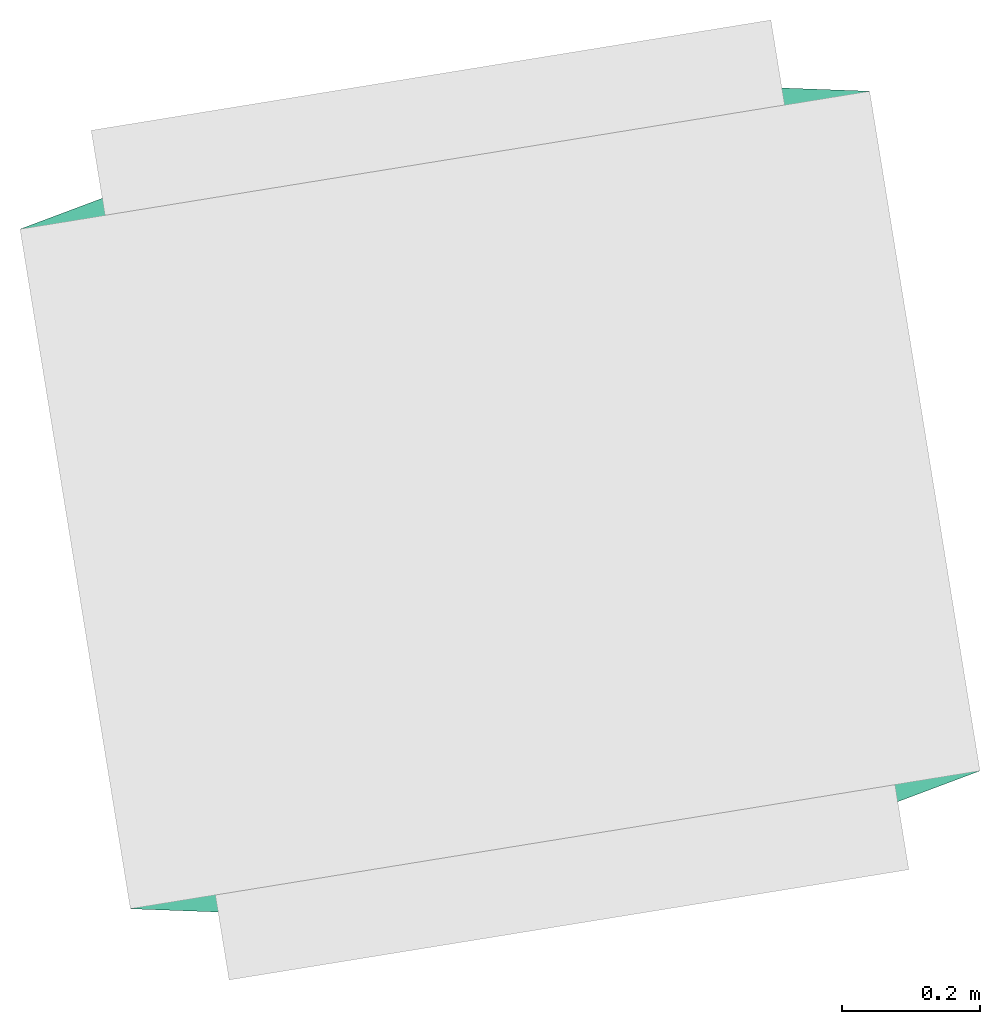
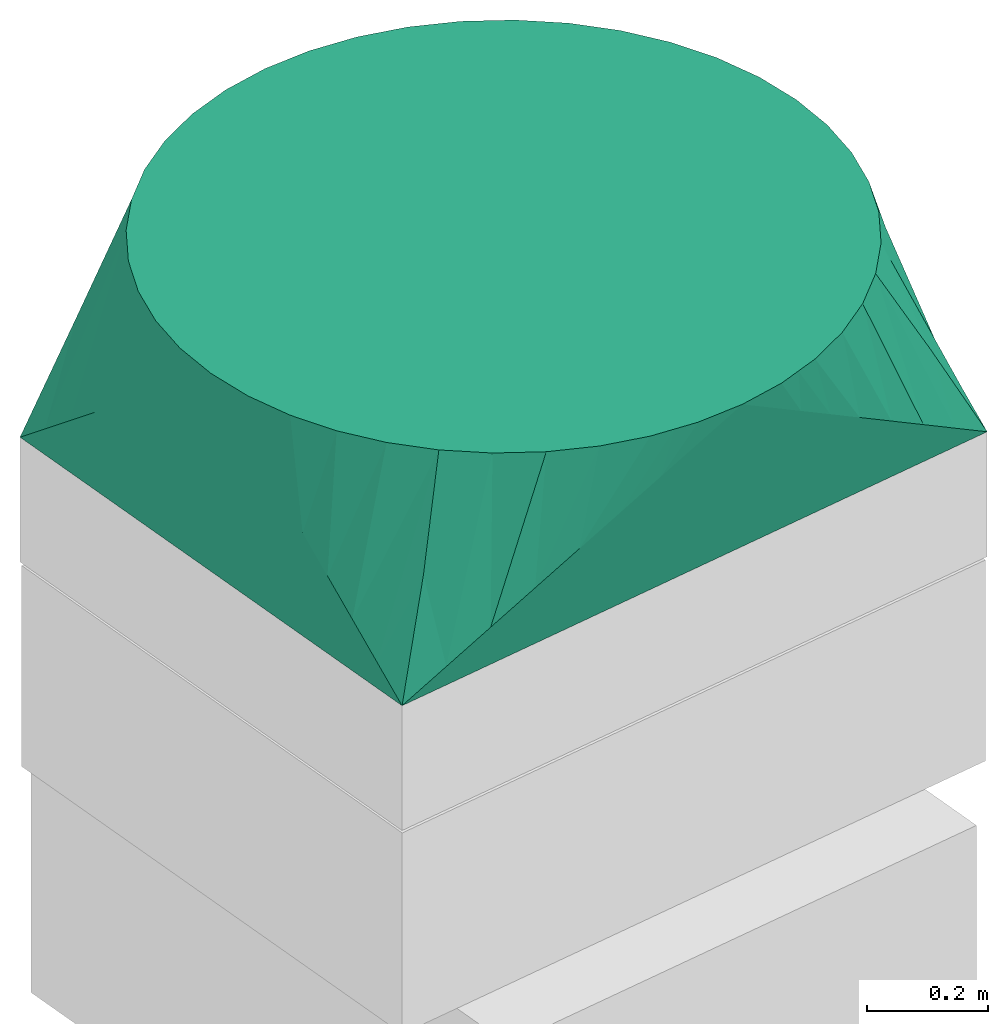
# One storey, part 2 of 3: 1 flow fitting.
"""IFC2X3 building model written with IfcOpenShell, lengths in millimetres."""

from ifc_helpers import new_model, entity, si_unit, converted_unit, derived_unit, direction, frame, origin, origin_with_axes, place, context, subcontext, project, spatial, faceted_brep, source, transform, mapped, material, type_object, element, save


model = new_model("IFC2X3")

# Units and contexts
model_context = context("Model", 3, precision=0.01, world=origin(), true_north=direction((6.12323399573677e-17, 1.0)))
plan_context = context("Plan", 3, precision=1e-05, world=origin_with_axes())
body_context = subcontext(model_context, "Body", "Model", "MODEL_VIEW")
ifc_project = project(units=[converted_unit("PLANEANGLEUNIT", "DEGREE", entity("IfcPositiveLengthMeasure", 0.0174532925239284), si_unit("PLANEANGLEUNIT", "RADIAN"), dimensions=[0, 0, 0, 0, 0, 0, 0]), si_unit("AREAUNIT", "SQUARE_METRE"), si_unit("LENGTHUNIT", "METRE", prefix="MILLI"), si_unit("MASSUNIT", "GRAM", prefix="KILO"), si_unit("POWERUNIT", "WATT"), si_unit("PRESSUREUNIT", "PASCAL", prefix="KILO"), si_unit("FORCEUNIT", "NEWTON", prefix="KILO"), si_unit("ELECTRICVOLTAGEUNIT", "VOLT"), si_unit("ELECTRICCURRENTUNIT", "AMPERE"), si_unit("THERMODYNAMICTEMPERATUREUNIT", "DEGREE_CELSIUS"), si_unit("TIMEUNIT", "SECOND"), si_unit("VOLUMEUNIT", "CUBIC_METRE"), derived_unit("LINEARVELOCITYUNIT", [(si_unit("LENGTHUNIT", "METRE"), 1), (si_unit("TIMEUNIT", "SECOND"), -1)]), derived_unit("VOLUMETRICFLOWRATEUNIT", [(si_unit("VOLUMEUNIT", "CUBIC_METRE"), 1), (si_unit("TIMEUNIT", "SECOND"), -1)]), derived_unit("THERMALTRANSMITTANCEUNIT", [(si_unit("POWERUNIT", "WATT"), 1), (si_unit("THERMODYNAMICTEMPERATUREUNIT", "KELVIN"), -1), (si_unit("AREAUNIT", "SQUARE_METRE"), -1)]), derived_unit("SOUNDPRESSUREUNIT", [(si_unit("PRESSUREUNIT", "PASCAL"), 1)])], contexts=[model_context, plan_context])

# Site, building, storey
site_placement = place(None, frame((-0.00071070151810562, 0.00438415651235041, 0.0), z_axis=(0.0, 0.0, 1.0), x_axis=(-0.160236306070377, 0.987078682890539, 0.0)))
site = spatial("IfcSite", under=ifc_project, at=site_placement, Name="Default", CompositionType="ELEMENT")
building_placement = place(site_placement, origin_with_axes())
building = spatial("IfcBuilding", under=site, at=building_placement, CompositionType="ELEMENT")
storey_placement = place(building_placement, frame((0.0, 0.0, 55630.0), z_axis=(0.0, 0.0, 1.0), x_axis=(1.0, 0.0, 0.0)))
storey = spatial("IfcBuildingStorey", under=building, at=storey_placement, Name="Nivå E", CompositionType="ELEMENT", Elevation=55630.0)

# Flow fitting
ifc_material = material(Name="Material_Duct")
duct_fitting_type = type_object("IfcDuctFittingType", Name="magicirc_multi_shape_trans_001:magicirc_multi_shape_trans_001", PredefinedType="NOTDEFINED", material=ifc_material)
shared_shape = source(origin(), body_context, "Body", "Brep", [
    faceted_brep([(400.0, 88.9467739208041, 618.638401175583), (400.0, 60.3959576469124, 620.680395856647), (400.0, 0.0, 625.0), (400.0, -60.3959576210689, 620.680395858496), (400.0, -88.9467739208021, 618.638401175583), (400.0, -132.514810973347, 609.160754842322), (400.0, -176.082848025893, 599.683108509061), (400.0, -259.634383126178, 568.519997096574), (400.0, -337.900510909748, 525.783458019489), (400.0, -409.287958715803, 472.343483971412), (400.0, -472.343483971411, 409.287958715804), (400.0, -525.783458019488, 337.900510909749), (400.0, -568.519997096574, 259.634383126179), (400.0, -599.683108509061, 176.082848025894), (400.0, -609.160754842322, 132.514810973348), (400.0, -618.638401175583, 88.9467739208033), (400.0, -620.680395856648, 60.3959576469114), (400.0, -625.0, 0.0), (400.0, -620.680395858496, -60.3959576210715), (400.0, -618.638401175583, -88.9467739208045), (400.0, -609.160754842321, -132.51481097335), (400.0, -599.68310850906, -176.082848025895), (400.0, -568.519997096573, -259.63438312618), (400.0, -525.783458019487, -337.900510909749), (400.0, -472.34348397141, -409.287958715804), (400.0, -409.287958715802, -472.343483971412), (400.0, -337.900510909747, -525.783458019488), (400.0, -259.634383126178, -568.519997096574), (400.0, -176.082848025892, -599.68310850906), (400.0, -132.514810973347, -609.160754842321), (400.0, -88.946773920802, -618.638401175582), (400.0, -60.3959576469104, -620.680395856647), (400.0, 0.0, -625.0), (400.0, 60.395957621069, -620.680395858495), (400.0, 88.9467739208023, -618.638401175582), (400.0, 132.514810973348, -609.160754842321), (400.0, 176.082848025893, -599.68310850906), (400.0, 259.634383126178, -568.519997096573), (400.0, 337.900510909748, -525.783458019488), (400.0, 409.287958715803, -472.343483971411), (400.0, 472.343483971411, -409.287958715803), (400.0, 525.783458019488, -337.900510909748), (400.0, 568.519997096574, -259.634383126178), (400.0, 599.683108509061, -176.082848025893), (400.0, 609.160754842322, -132.514810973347), (400.0, 618.638401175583, -88.9467739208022), (400.0, 620.680395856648, -60.3959576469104), (400.0, 625.0, 0.0), (400.0, 620.680395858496, 60.3959576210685), (400.0, 618.638401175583, 88.9467739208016), (400.0, 609.160754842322, 132.514810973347), (400.0, 599.683108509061, 176.082848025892), (400.0, 568.519997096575, 259.634383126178), (400.0, 525.783458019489, 337.900510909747), (400.0, 472.343483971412, 409.287958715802), (400.0, 409.287958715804, 472.343483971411), (400.0, 337.90051090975, 525.783458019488), (400.0, 259.63438312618, 568.519997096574), (400.0, 176.082848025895, 599.683108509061), (400.0, 132.514810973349, 609.160754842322), (0.0, -625.0, 500.0), (0.0, 625.0, 500.0), (0.0, 625.0, -500.0), (0.0, -625.0, -500.0), (204.526532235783, -517.881497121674, 483.067464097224), (52.0571133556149, -543.660760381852, 516.26784792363), (156.171340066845, -380.982281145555, 548.80354377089), (104.11422671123, -462.321520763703, 532.53569584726), (104.114223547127, -625.0, 369.857220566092), (304.11422671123, -149.821520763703, 595.035695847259), (208.228453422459, -299.643041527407, 565.071391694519), (208.228447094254, -625.0, 239.714441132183), (256.171335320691, -625.0, 179.785830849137), (304.114223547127, -625.0, 119.857220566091), (328.085667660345, -625.0, 89.8929154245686), (352.057111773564, -625.0, 59.9286102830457), (352.057113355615, -74.9107603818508, 610.01784792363), (328.085670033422, -112.366140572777, 602.526771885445), (52.0571117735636, -625.0, 434.928610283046), (156.171335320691, -625.0, 304.785830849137), (256.171340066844, -224.732281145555, 580.053543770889), (52.0571133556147, -625.0, -434.928608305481), (104.11422671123, -625.0, -369.857216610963), (156.171340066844, -625.0, -304.785824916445), (208.228453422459, -625.0, -239.714433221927), (256.171340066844, -625.0, -179.785824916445), (304.114226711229, -625.0, -119.857216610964), (328.085670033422, -625.0, -89.8929124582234), (352.057113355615, -625.0, -59.9286083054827), (204.526532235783, -544.15292277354, -456.796038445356), (104.114223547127, -462.321525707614, -532.535694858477), (208.228447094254, -299.643051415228, -565.071389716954), (256.17133532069, -224.732288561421, -580.053542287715), (304.114223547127, -149.821525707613, -595.035694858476), (328.085667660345, -112.36614428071, -602.526771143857), (352.057111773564, -74.9107628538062, -610.017847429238), (52.0571117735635, -543.660762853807, -516.267847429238), (156.17133532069, -380.982288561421, -548.803542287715), (52.0571133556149, 543.66076038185, -516.267847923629), (104.11422671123, 462.321520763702, -532.535695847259), (156.171340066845, 380.982281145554, -548.803543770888), (208.228453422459, 299.643041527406, -565.071391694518), (256.171340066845, 224.732281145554, -580.053543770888), (304.11422671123, 149.821520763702, -595.035695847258), (328.085670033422, 112.366140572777, -602.526771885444), (352.057113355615, 74.9107603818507, -610.017847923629), (204.526532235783, 517.881497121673, -483.067464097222), (104.114223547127, 625.0, -369.85722056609), (208.228447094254, 625.0, -239.714441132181), (256.171335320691, 625.0, -179.785830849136), (304.114223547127, 625.0, -119.85722056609), (328.085667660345, 625.0, -89.8929154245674), (352.057111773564, 625.0, -59.9286102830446), (52.0571117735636, 625.0, -434.928610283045), (156.171335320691, 625.0, -304.785830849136), (52.0571133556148, 625.0, 434.928608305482), (104.11422671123, 625.0, 369.857216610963), (156.171340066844, 625.0, 304.785824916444), (208.228453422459, 625.0, 239.714433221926), (256.171340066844, 625.0, 179.785824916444), (304.11422671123, 625.0, 119.857216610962), (328.085670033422, 625.0, 89.8929124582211), (352.057113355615, 625.0, 59.9286083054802), (204.526532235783, 544.15292277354, 456.796038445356), (104.114223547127, 462.321525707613, 532.535694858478), (208.228447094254, 299.643051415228, 565.071389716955), (256.171335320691, 224.732288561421, 580.053542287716), (304.114223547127, 149.821525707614, 595.035694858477), (328.085667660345, 112.366144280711, 602.526771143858), (352.057111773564, 74.9107628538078, 610.017847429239), (52.0571117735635, 543.660762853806, 516.267847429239), (156.171335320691, 380.982288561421, 548.803542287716)], [[[0, 1, 2, 3, 4, 5, 6, 7, 8, 9, 10, 11, 12, 13, 14, 15, 16, 17, 18, 19, 20, 21, 22, 23, 24, 25, 26, 27, 28, 29, 30, 31, 32, 33, 34, 35, 36, 37, 38, 39, 40, 41, 42, 43, 44, 45, 46, 47, 48, 49, 50, 51, 52, 53, 54, 55, 56, 57, 58, 59]], [[60, 61, 62, 63]], [[60, 64, 65]], [[66, 67, 8]], [[8, 7, 66]], [[68, 11, 10]], [[5, 4, 69]], [[6, 70, 7]], [[13, 71, 72]], [[15, 73, 74, 75, 17, 16]], [[3, 2, 76, 77, 69, 4]], [[67, 9, 8]], [[60, 78, 64]], [[11, 79, 12]], [[80, 70, 6]], [[9, 65, 64]], [[9, 67, 65]], [[5, 80, 6]], [[71, 13, 12]], [[72, 14, 13]], [[73, 14, 72]], [[73, 15, 14]], [[80, 5, 69]], [[7, 70, 66]], [[79, 11, 68]], [[79, 71, 12]], [[78, 68, 10]], [[10, 9, 64]], [[64, 78, 10]], [[75, 74, 73, 72, 71, 79, 68, 78, 60, 63, 81, 82, 83, 84, 85, 86, 87, 88, 17]], [[63, 89, 81]], [[83, 82, 23]], [[23, 22, 83]], [[90, 26, 25]], [[20, 19, 86]], [[21, 84, 22]], [[28, 91, 92]], [[30, 93, 94, 95, 32, 31]], [[18, 17, 88, 87, 86, 19]], [[82, 24, 23]], [[63, 96, 89]], [[26, 97, 27]], [[85, 84, 21]], [[24, 81, 89]], [[24, 82, 81]], [[20, 85, 21]], [[91, 28, 27]], [[92, 29, 28]], [[93, 29, 92]], [[93, 30, 29]], [[85, 20, 86]], [[22, 84, 83]], [[97, 26, 90]], [[97, 91, 27]], [[96, 90, 25]], [[25, 24, 89]], [[89, 96, 25]], [[63, 62, 98, 99, 100, 101, 102, 103, 104, 105, 32, 95, 94, 93, 92, 91, 97, 90, 96]], [[62, 106, 98]], [[100, 99, 38]], [[38, 37, 100]], [[107, 41, 40]], [[35, 34, 103]], [[36, 101, 37]], [[43, 108, 109]], [[45, 110, 111, 112, 47, 46]], [[33, 32, 105, 104, 103, 34]], [[99, 39, 38]], [[62, 113, 106]], [[41, 114, 42]], [[102, 101, 36]], [[39, 98, 106]], [[39, 99, 98]], [[35, 102, 36]], [[108, 43, 42]], [[109, 44, 43]], [[110, 44, 109]], [[110, 45, 44]], [[102, 35, 103]], [[37, 101, 100]], [[114, 41, 107]], [[114, 108, 42]], [[113, 107, 40]], [[40, 39, 106]], [[106, 113, 40]], [[62, 61, 115, 116, 117, 118, 119, 120, 121, 122, 47, 112, 111, 110, 109, 108, 114, 107, 113]], [[61, 123, 115]], [[117, 116, 53]], [[53, 52, 117]], [[124, 56, 55]], [[50, 49, 120]], [[51, 118, 52]], [[58, 125, 126]], [[0, 127, 128, 129, 2, 1]], [[48, 47, 122, 121, 120, 49]], [[116, 54, 53]], [[61, 130, 123]], [[56, 131, 57]], [[119, 118, 51]], [[54, 115, 123]], [[54, 116, 115]], [[50, 119, 51]], [[125, 58, 57]], [[126, 59, 58]], [[127, 59, 126]], [[127, 0, 59]], [[119, 50, 120]], [[52, 118, 117]], [[131, 56, 124]], [[131, 125, 57]], [[130, 124, 55]], [[55, 54, 123]], [[123, 130, 55]], [[61, 60, 65, 67, 66, 70, 80, 69, 77, 76, 2, 129, 128, 127, 126, 125, 131, 124, 130]]]),
])
flow_fitting_placement = place(storey_placement, frame((776626.452700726, -596135.086612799, -4177.86921803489), z_axis=(-1.0, 0.0, 0.0), x_axis=(0.0, 0.0, 1.0)))
element("IfcFlowFitting", 1, at=flow_fitting_placement, inside=storey, type_object=duct_fitting_type, material=ifc_material, Name="magicirc_multi_shape_trans_001:magicirc_multi_shape_trans_001", ObjectType="magicirc_multi_shape_trans_001:magicirc_multi_shape_trans_001", context=body_context, shape_type="MappedRepresentation", body=[
    mapped(shared_shape, transform((0.0, 0.0, 0.0), scale=1.0)),
])

save(model, "model.ifc")
